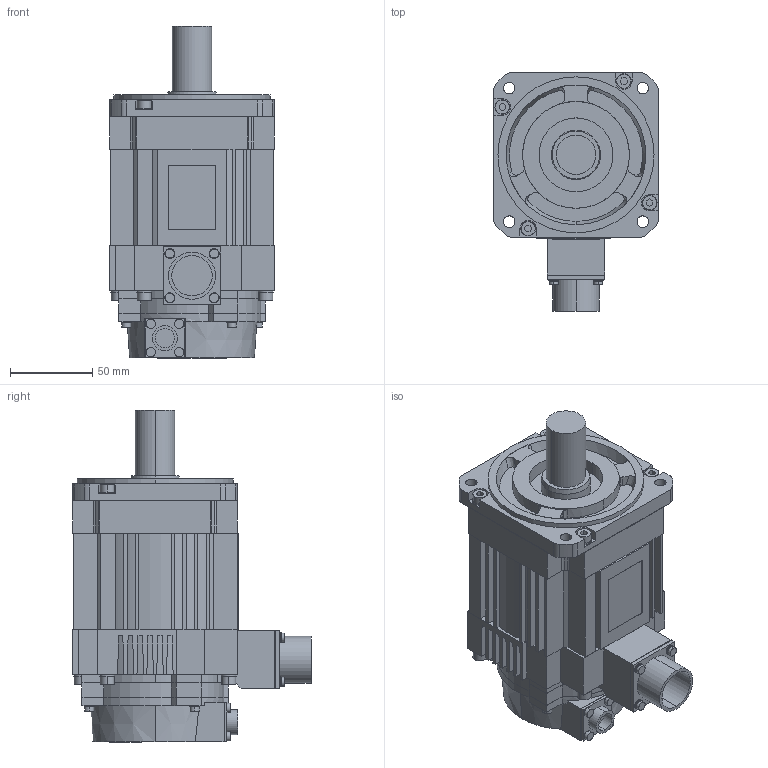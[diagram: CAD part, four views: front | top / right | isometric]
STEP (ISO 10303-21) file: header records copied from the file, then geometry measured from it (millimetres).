
FILE_DESCRIPTION (( 'STEP AP203' ), '1' );
FILE_NAME ('sgm7a_15a_a21.STEP', '2016-02-18T23:38:07', ( '匠エンジニアリング山之内' ), ( 'TAKUMI-Engniaring' ), 'SwSTEP 2.0', 'SolidWorks 2006303', '' );
FILE_SCHEMA (( 'CONFIG_CONTROL_DESIGN' ));
Length unit declared in the file: millimetre
Products named in the file (1): sgm7a_15a_a21
Bounding box: 100 x 145 x 202.1 mm (x, y, z)
Volume: 1272433.5 mm3; surface area: 121502.8 mm2
Topology: 1 solids, 1 shells, 660 faces, 1727 edges, 1140 vertices
Faces by surface type: plane 441, cylinder 188, cone 25, bspline 6
Entity records: 20619 total; most frequent: CARTESIAN_POINT 3951, ORIENTED_EDGE 3454, DIRECTION 3427, EDGE_CURVE 1727, VECTOR 1213, LINE 1213, VERTEX_POINT 1140, AXIS2_PLACEMENT_3D 1107
